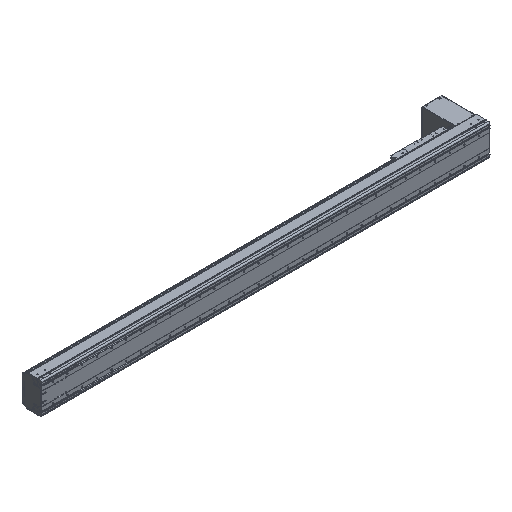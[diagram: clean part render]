
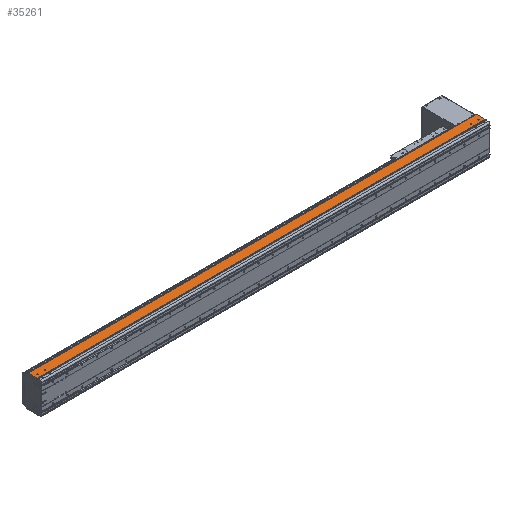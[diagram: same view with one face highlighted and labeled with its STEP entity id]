
A CAD part, isometric view. The second image highlights one B-rep face of the part: STEP entity #35261.
In plain terms, the highlighted planar face has unit normal (0, 0, 1).
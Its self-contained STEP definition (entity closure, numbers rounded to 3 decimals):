
#9345=DIRECTION('',(-1.,-0.006,-0.017));
#9346=VECTOR('',#9345,1.5);
#9347=CARTESIAN_POINT('',(1.5,94.,107.));
#9348=LINE('',#9347,#9346);
#9349=DIRECTION('',(-1.,0.,0.));
#9350=VECTOR('',#9349,3048.5);
#9351=CARTESIAN_POINT('',(0.,93.5,107.));
#9352=LINE('',#9351,#9350);
#9377=CARTESIAN_POINT('',(0.,93.992,
106.974));
#9378=CARTESIAN_POINT('',(0.,93.906,
106.974));
#9379=CARTESIAN_POINT('',(0.,93.75,
107.013));
#9380=CARTESIAN_POINT('',(0.,93.581,107.));
#9381=CARTESIAN_POINT('',(0.,93.5,107.));
#9383=CARTESIAN_POINT('',(-3023.5,54.,107.));
#9384=DIRECTION('',(0.,0.,-1.));
#9385=DIRECTION('',(1.,0.,0.));
#9386=AXIS2_PLACEMENT_3D('',#9383,#9384,#9385);
#9388=CARTESIAN_POINT('',(-3023.5,54.,107.));
#9389=DIRECTION('',(0.,0.,-1.));
#9390=DIRECTION('',(-1.,0.,0.));
#9391=AXIS2_PLACEMENT_3D('',#9388,#9389,#9390);
#9393=CARTESIAN_POINT('',(-2973.5,54.,107.));
#9394=DIRECTION('',(0.,0.,-1.));
#9395=DIRECTION('',(1.,0.,0.));
#9396=AXIS2_PLACEMENT_3D('',#9393,#9394,#9395);
#9398=CARTESIAN_POINT('',(-2973.5,54.,107.));
#9399=DIRECTION('',(0.,0.,-1.));
#9400=DIRECTION('',(-1.,0.,0.));
#9401=AXIS2_PLACEMENT_3D('',#9398,#9399,#9400);
#9403=CARTESIAN_POINT('',(-23.5,54.,107.));
#9404=DIRECTION('',(0.,0.,-1.));
#9405=DIRECTION('',(1.,0.,0.));
#9406=AXIS2_PLACEMENT_3D('',#9403,#9404,#9405);
#9408=CARTESIAN_POINT('',(-23.5,54.,107.));
#9409=DIRECTION('',(0.,0.,-1.));
#9410=DIRECTION('',(-1.,0.,0.));
#9411=AXIS2_PLACEMENT_3D('',#9408,#9409,#9410);
#9413=CARTESIAN_POINT('',(-73.5,54.,107.));
#9414=DIRECTION('',(0.,0.,-1.));
#9415=DIRECTION('',(1.,0.,0.));
#9416=AXIS2_PLACEMENT_3D('',#9413,#9414,#9415);
#9418=CARTESIAN_POINT('',(-73.5,54.,107.));
#9419=DIRECTION('',(0.,0.,-1.));
#9420=DIRECTION('',(-1.,0.,0.));
#9421=AXIS2_PLACEMENT_3D('',#9418,#9419,#9420);
#9423=DIRECTION('',(0.,-1.,0.));
#9424=VECTOR('',#9423,2.55);
#9425=CARTESIAN_POINT('',(-3046.5,34.65,107.));
#9426=LINE('',#9425,#9424);
#9427=DIRECTION('',(0.,-1.,0.));
#9428=VECTOR('',#9427,58.85);
#9429=CARTESIAN_POINT('',(-3048.5,93.5,107.));
#9430=LINE('',#9429,#9428);
#9431=DIRECTION('',(0.,1.,0.));
#9432=VECTOR('',#9431,58.35);
#9433=CARTESIAN_POINT('',(1.5,35.65,107.));
#9434=LINE('',#9433,#9432);
#9435=DIRECTION('',(0.,1.,0.));
#9436=VECTOR('',#9435,3.55);
#9437=CARTESIAN_POINT('',(0.,32.1,107.));
#9438=LINE('',#9437,#9436);
#9439=DIRECTION('',(1.,0.,0.));
#9440=VECTOR('',#9439,3046.5);
#9441=CARTESIAN_POINT('',(-3046.5,32.1,107.));
#9442=LINE('',#9441,#9440);
#9551=DIRECTION('',(1.,0.,0.));
#9552=VECTOR('',#9551,2.);
#9553=CARTESIAN_POINT('',(-3048.5,34.65,107.));
#9554=LINE('',#9553,#9552);
#9575=DIRECTION('',(1.,0.,0.));
#9576=VECTOR('',#9575,1.5);
#9577=CARTESIAN_POINT('',(0.,35.65,107.));
#9578=LINE('',#9577,#9576);
#19592=CARTESIAN_POINT('',(1.5,94.,107.));
#19593=VERTEX_POINT('',#19592);
#19594=CARTESIAN_POINT('',(1.5,35.65,107.));
#19595=VERTEX_POINT('',#19594);
#19664=CARTESIAN_POINT('',(-3048.5,34.65,107.));
#19665=VERTEX_POINT('',#19664);
#19666=CARTESIAN_POINT('',(-3048.5,93.5,107.));
#19667=VERTEX_POINT('',#19666);
#19892=CARTESIAN_POINT('',(-3046.5,32.1,107.));
#19893=VERTEX_POINT('',#19892);
#19943=CARTESIAN_POINT('',(0.,32.1,107.));
#19945=VERTEX_POINT('',#19943);
#20642=CARTESIAN_POINT('',(-3021.,54.,107.));
#20643=CARTESIAN_POINT('',(-3026.,54.,107.));
#20644=VERTEX_POINT('',#20642);
#20645=VERTEX_POINT('',#20643);
#20646=CARTESIAN_POINT('',(-2971.,54.,107.));
#20647=CARTESIAN_POINT('',(-2976.,54.,107.));
#20648=VERTEX_POINT('',#20646);
#20649=VERTEX_POINT('',#20647);
#20650=CARTESIAN_POINT('',(-21.,54.,107.));
#20651=CARTESIAN_POINT('',(-26.,54.,107.));
#20652=VERTEX_POINT('',#20650);
#20653=VERTEX_POINT('',#20651);
#20654=CARTESIAN_POINT('',(-71.,54.,107.));
#20655=CARTESIAN_POINT('',(-76.,54.,107.));
#20656=VERTEX_POINT('',#20654);
#20657=VERTEX_POINT('',#20655);
#23224=CARTESIAN_POINT('',(0.,35.65,107.));
#23225=VERTEX_POINT('',#23224);
#23358=VERTEX_POINT('',#9377);
#23359=VERTEX_POINT('',#9381);
#23815=CARTESIAN_POINT('',(-3046.5,34.65,107.));
#23816=VERTEX_POINT('',#23815);
#35217=CARTESIAN_POINT('',(-1523.25,62.8,107.));
#35218=DIRECTION('',(0.,0.,1.));
#35219=DIRECTION('',(0.,-1.,0.));
#35220=AXIS2_PLACEMENT_3D('',#35217,#35218,#35219);
#35221=PLANE('',#35220);
#35222=ORIENTED_EDGE('',*,*,#25644,.F.);
#35224=ORIENTED_EDGE('',*,*,#35223,.F.);
#35225=ORIENTED_EDGE('',*,*,#27912,.F.);
#35226=ORIENTED_EDGE('',*,*,#35203,.F.);
#35227=ORIENTED_EDGE('',*,*,#35212,.F.);
#35228=ORIENTED_EDGE('',*,*,#35193,.F.);
#35229=ORIENTED_EDGE('',*,*,#24572,.F.);
#35231=ORIENTED_EDGE('',*,*,#35230,.F.);
#35232=ORIENTED_EDGE('',*,*,#26401,.F.);
#35234=ORIENTED_EDGE('',*,*,#35233,.F.);
#35235=EDGE_LOOP('',(#35222,#35224,#35225,#35226,#35227,#35228,#35229,#35231,
#35232,#35234));
#35236=FACE_OUTER_BOUND('',#35235,.F.);
#35238=ORIENTED_EDGE('',*,*,#35237,.F.);
#35240=ORIENTED_EDGE('',*,*,#35239,.F.);
#35241=EDGE_LOOP('',(#35238,#35240));
#35242=FACE_BOUND('',#35241,.F.);
#35244=ORIENTED_EDGE('',*,*,#35243,.F.);
#35246=ORIENTED_EDGE('',*,*,#35245,.F.);
#35247=EDGE_LOOP('',(#35244,#35246));
#35248=FACE_BOUND('',#35247,.F.);
#35250=ORIENTED_EDGE('',*,*,#35249,.F.);
#35252=ORIENTED_EDGE('',*,*,#35251,.F.);
#35253=EDGE_LOOP('',(#35250,#35252));
#35254=FACE_BOUND('',#35253,.F.);
#35256=ORIENTED_EDGE('',*,*,#35255,.F.);
#35258=ORIENTED_EDGE('',*,*,#35257,.F.);
#35259=EDGE_LOOP('',(#35256,#35258));
#35260=FACE_BOUND('',#35259,.F.);
#35261=ADVANCED_FACE('',(#35236,#35242,#35248,#35254,#35260),#35221,.T.);
#9382=B_SPLINE_CURVE_WITH_KNOTS('',3,(#9377,#9378,#9379,#9380,#9381),
.UNSPECIFIED.,.F.,.F.,(4,1,4),(0.,0.5,1.),.UNSPECIFIED.);
#9387=CIRCLE('',#9386,2.5);
#9392=CIRCLE('',#9391,2.5);
#9397=CIRCLE('',#9396,2.5);
#9402=CIRCLE('',#9401,2.5);
#9407=CIRCLE('',#9406,2.5);
#9412=CIRCLE('',#9411,2.5);
#9417=CIRCLE('',#9416,2.5);
#9422=CIRCLE('',#9421,2.5);
#24572=EDGE_CURVE('',#19595,#19593,#9434,.T.);
#25644=EDGE_CURVE('',#23816,#19893,#9426,.T.);
#26401=EDGE_CURVE('',#19945,#23225,#9438,.T.);
#27912=EDGE_CURVE('',#19667,#19665,#9430,.T.);
#35193=EDGE_CURVE('',#19593,#23358,#9348,.T.);
#35203=EDGE_CURVE('',#23359,#19667,#9352,.T.);
#35212=EDGE_CURVE('',#23358,#23359,#9382,.T.);
#35223=EDGE_CURVE('',#19665,#23816,#9554,.T.);
#35230=EDGE_CURVE('',#23225,#19595,#9578,.T.);
#35233=EDGE_CURVE('',#19893,#19945,#9442,.T.);
#35237=EDGE_CURVE('',#20648,#20649,#9397,.T.);
#35239=EDGE_CURVE('',#20649,#20648,#9402,.T.);
#35243=EDGE_CURVE('',#20652,#20653,#9407,.T.);
#35245=EDGE_CURVE('',#20653,#20652,#9412,.T.);
#35249=EDGE_CURVE('',#20656,#20657,#9417,.T.);
#35251=EDGE_CURVE('',#20657,#20656,#9422,.T.);
#35255=EDGE_CURVE('',#20644,#20645,#9387,.T.);
#35257=EDGE_CURVE('',#20645,#20644,#9392,.T.);
